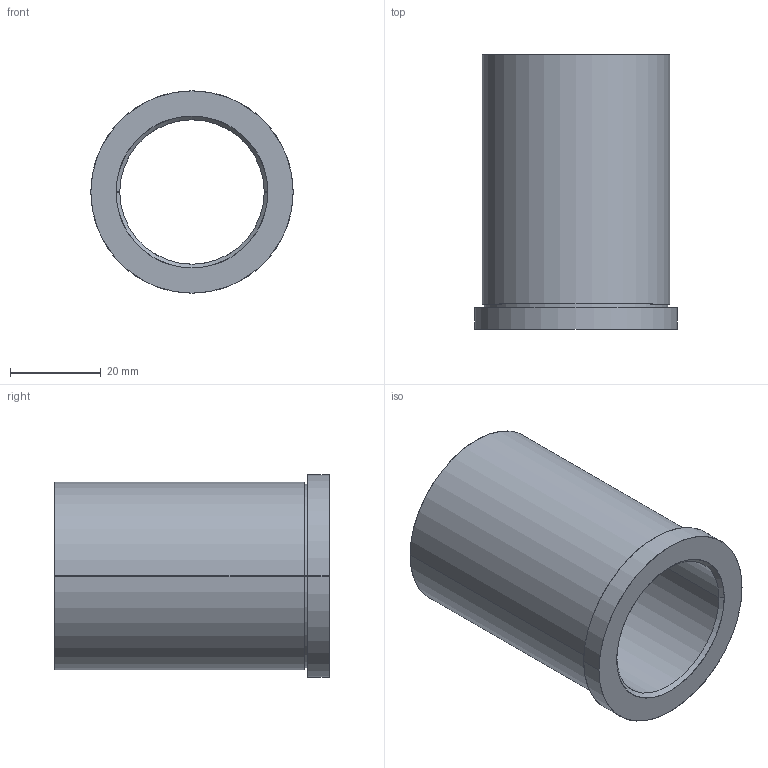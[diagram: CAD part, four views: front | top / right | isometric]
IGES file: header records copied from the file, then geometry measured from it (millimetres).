
Start section: SolidWorks IGES file using analytic representation for surfaces
Global section: file name: C:\Users\Ryan\Documents\PCS\Shoulder Bushings\BU-403.igs; native system: SolidWorks 2009; preprocessor: SolidWorks 2009; author: Ryan; date: 140226.220606; units: inch
Bounding box: 44.45 x 60.33 x 44.45 mm (x, y, z)
Surface area: 15427.1 mm2 (no closed solid volume)
Topology: 0 solids, 0 shells, 16 faces, 560 edges, 560 vertices
Faces by surface type: revolution 10, bspline 6
